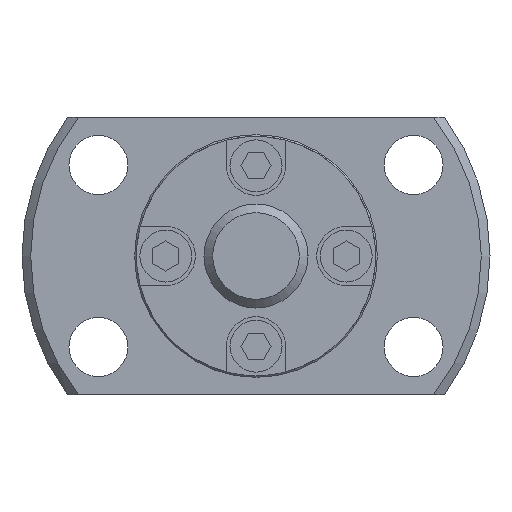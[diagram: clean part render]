
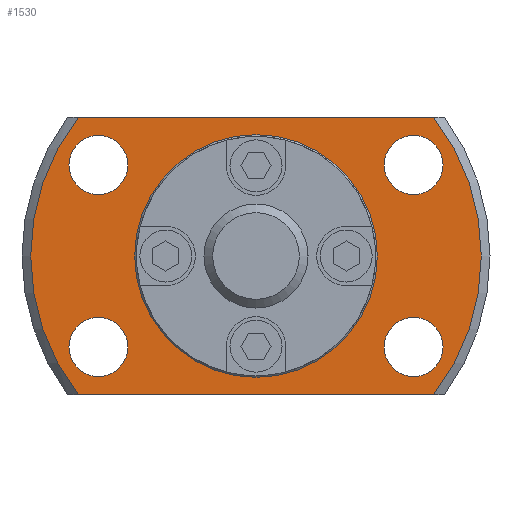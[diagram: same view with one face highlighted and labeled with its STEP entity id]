
A CAD part, left-side view. The second image highlights one B-rep face of the part: STEP entity #1530.
In plain terms, the highlighted planar face has unit normal (-1, 0, 0).
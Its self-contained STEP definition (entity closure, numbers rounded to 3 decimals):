
#124=LINE('',#2507,#244);
#125=LINE('',#2511,#245);
#244=VECTOR('',#2017,1000.);
#245=VECTOR('',#2020,1000.);
#450=ORIENTED_EDGE('',*,*,#812,.T.);
#451=ORIENTED_EDGE('',*,*,#813,.T.);
#452=ORIENTED_EDGE('',*,*,#814,.T.);
#453=ORIENTED_EDGE('',*,*,#815,.T.);
#454=ORIENTED_EDGE('',*,*,#768,.F.);
#455=ORIENTED_EDGE('',*,*,#816,.T.);
#456=ORIENTED_EDGE('',*,*,#817,.F.);
#457=ORIENTED_EDGE('',*,*,#818,.T.);
#458=ORIENTED_EDGE('',*,*,#811,.T.);
#768=EDGE_CURVE('',#963,#964,#1081,.T.);
#811=EDGE_CURVE('',#1001,#1001,#1103,.T.);
#812=EDGE_CURVE('',#1002,#1002,#1104,.T.);
#813=EDGE_CURVE('',#1003,#1003,#1105,.T.);
#814=EDGE_CURVE('',#1004,#1004,#1106,.T.);
#815=EDGE_CURVE('',#1005,#1005,#1107,.T.);
#816=EDGE_CURVE('',#963,#1006,#124,.T.);
#817=EDGE_CURVE('',#1007,#1006,#1108,.T.);
#818=EDGE_CURVE('',#1007,#964,#125,.T.);
#963=VERTEX_POINT('',#2397);
#964=VERTEX_POINT('',#2399);
#1001=VERTEX_POINT('',#2497);
#1002=VERTEX_POINT('',#2500);
#1003=VERTEX_POINT('',#2502);
#1004=VERTEX_POINT('',#2504);
#1005=VERTEX_POINT('',#2506);
#1006=VERTEX_POINT('',#2508);
#1007=VERTEX_POINT('',#2510);
#1081=CIRCLE('',#1670,13.);
#1103=CIRCLE('',#1701,6.8);
#1104=CIRCLE('',#1703,1.7);
#1105=CIRCLE('',#1704,1.7);
#1106=CIRCLE('',#1705,1.7);
#1107=CIRCLE('',#1706,1.7);
#1108=CIRCLE('',#1707,13.);
#1188=EDGE_LOOP('',(#450));
#1189=EDGE_LOOP('',(#451));
#1190=EDGE_LOOP('',(#452));
#1191=EDGE_LOOP('',(#453));
#1192=EDGE_LOOP('',(#454,#455,#456,#457));
#1193=EDGE_LOOP('',(#458));
#1340=FACE_BOUND('',#1188,.T.);
#1341=FACE_BOUND('',#1189,.T.);
#1342=FACE_BOUND('',#1190,.T.);
#1343=FACE_BOUND('',#1191,.T.);
#1344=FACE_BOUND('',#1192,.T.);
#1345=FACE_BOUND('',#1193,.T.);
#1450=PLANE('',#1702);
#1530=ADVANCED_FACE('',(#1340,#1341,#1342,#1343,#1344,#1345),#1450,.F.);
#1670=AXIS2_PLACEMENT_3D('',#2398,#1925,#1926);
#1701=AXIS2_PLACEMENT_3D('',#2496,#2005,#2006);
#1702=AXIS2_PLACEMENT_3D('',#2498,#2007,#2008);
#1703=AXIS2_PLACEMENT_3D('',#2499,#2009,#2010);
#1704=AXIS2_PLACEMENT_3D('',#2501,#2011,#2012);
#1705=AXIS2_PLACEMENT_3D('',#2503,#2013,#2014);
#1706=AXIS2_PLACEMENT_3D('',#2505,#2015,#2016);
#1707=AXIS2_PLACEMENT_3D('',#2509,#2018,#2019);
#1925=DIRECTION('',(1.,0.,0.));
#1926=DIRECTION('',(0.,0.,-1.));
#2005=DIRECTION('',(1.,0.,0.));
#2006=DIRECTION('',(0.,0.,-1.));
#2007=DIRECTION('',(1.,0.,0.));
#2008=DIRECTION('',(0.,0.,-1.));
#2009=DIRECTION('',(1.,0.,0.));
#2010=DIRECTION('',(0.,0.,-1.));
#2011=DIRECTION('',(1.,0.,0.));
#2012=DIRECTION('',(0.,0.,-1.));
#2013=DIRECTION('',(1.,0.,0.));
#2014=DIRECTION('',(0.,0.,-1.));
#2015=DIRECTION('',(1.,0.,0.));
#2016=DIRECTION('',(0.,0.,-1.));
#2017=DIRECTION('',(0.,-1.,0.));
#2018=DIRECTION('',(1.,0.,0.));
#2019=DIRECTION('',(0.,0.,-1.));
#2020=DIRECTION('',(0.,1.,0.));
#2397=CARTESIAN_POINT('',(11.5,10.247,-8.));
#2398=CARTESIAN_POINT('',(11.5,0.,0.));
#2399=CARTESIAN_POINT('',(11.5,10.247,8.));
#2496=CARTESIAN_POINT('',(11.5,0.,0.));
#2497=CARTESIAN_POINT('',(11.5,0.,-6.8));
#2498=CARTESIAN_POINT('',(11.5,6.8,0.));
#2499=CARTESIAN_POINT('',(11.5,-9.093,-5.25));
#2500=CARTESIAN_POINT('',(11.5,-9.093,-6.95));
#2501=CARTESIAN_POINT('',(11.5,-9.093,5.25));
#2502=CARTESIAN_POINT('',(11.5,-9.093,3.55));
#2503=CARTESIAN_POINT('',(11.5,9.093,-5.25));
#2504=CARTESIAN_POINT('',(11.5,9.093,-6.95));
#2505=CARTESIAN_POINT('',(11.5,9.093,5.25));
#2506=CARTESIAN_POINT('',(11.5,9.093,3.55));
#2507=CARTESIAN_POINT('',(11.5,6.8,-8.));
#2508=CARTESIAN_POINT('',(11.5,-10.247,-8.));
#2509=CARTESIAN_POINT('',(11.5,0.,0.));
#2510=CARTESIAN_POINT('',(11.5,-10.247,8.));
#2511=CARTESIAN_POINT('',(11.5,6.8,8.));
